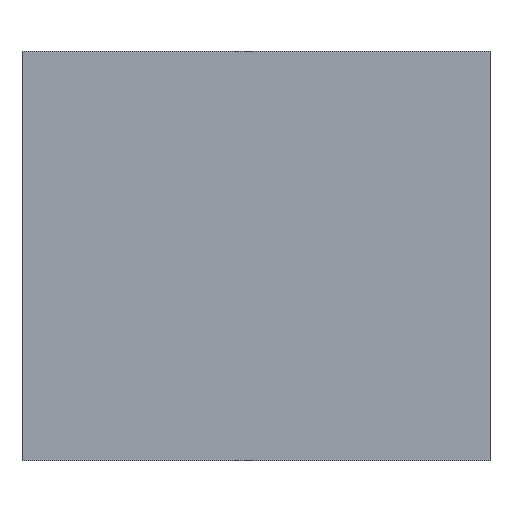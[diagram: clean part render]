
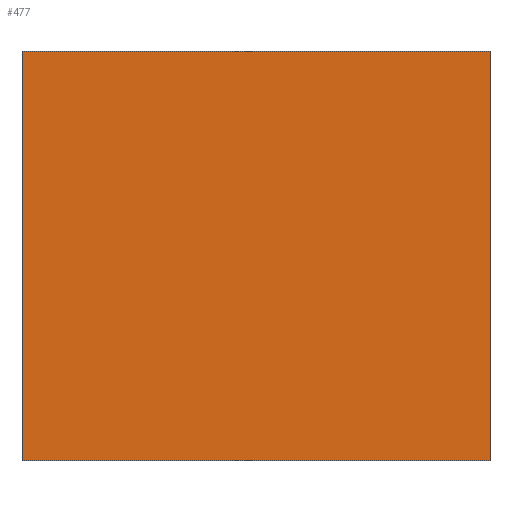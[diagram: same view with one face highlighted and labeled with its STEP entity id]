
A CAD part, top view. The second image highlights one B-rep face of the part: STEP entity #477.
In plain terms, the highlighted planar face has unit normal (0, 0, 1).
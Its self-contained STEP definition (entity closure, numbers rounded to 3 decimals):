
#70=FACE_OUTER_BOUND('',#99,.T.);
#99=EDGE_LOOP('',(#394,#395,#396,#397));
#140=LINE('',#774,#184);
#143=LINE('',#780,#187);
#146=LINE('',#786,#190);
#149=LINE('',#790,#193);
#184=VECTOR('',#648,10.);
#187=VECTOR('',#653,10.);
#190=VECTOR('',#658,10.);
#193=VECTOR('',#663,10.);
#228=VERTEX_POINT('',#771);
#229=VERTEX_POINT('',#773);
#231=VERTEX_POINT('',#779);
#233=VERTEX_POINT('',#785);
#284=EDGE_CURVE('',#229,#228,#140,.T.);
#287=EDGE_CURVE('',#231,#229,#143,.T.);
#290=EDGE_CURVE('',#233,#231,#146,.T.);
#293=EDGE_CURVE('',#228,#233,#149,.T.);
#394=ORIENTED_EDGE('',*,*,#293,.T.);
#395=ORIENTED_EDGE('',*,*,#290,.T.);
#396=ORIENTED_EDGE('',*,*,#287,.T.);
#397=ORIENTED_EDGE('',*,*,#284,.T.);
#428=PLANE('',#540);
#477=ADVANCED_FACE('',(#70),#428,.T.);
#540=AXIS2_PLACEMENT_3D('',#791,#664,#665);
#648=DIRECTION('',(1.,0.,0.));
#653=DIRECTION('',(0.,-1.,0.));
#658=DIRECTION('',(-1.,0.,0.));
#663=DIRECTION('',(0.,1.,0.));
#664=DIRECTION('center_axis',(0.,0.,1.));
#665=DIRECTION('ref_axis',(1.,0.,0.));
#771=CARTESIAN_POINT('',(200.,-175.,100.));
#773=CARTESIAN_POINT('',(-200.,-175.,100.));
#774=CARTESIAN_POINT('',(-200.,-175.,100.));
#779=CARTESIAN_POINT('',(-200.,175.,100.));
#780=CARTESIAN_POINT('',(-200.,175.,100.));
#785=CARTESIAN_POINT('',(200.,175.,100.));
#786=CARTESIAN_POINT('',(200.,175.,100.));
#790=CARTESIAN_POINT('',(200.,-175.,100.));
#791=CARTESIAN_POINT('Origin',(0.,0.,100.));
